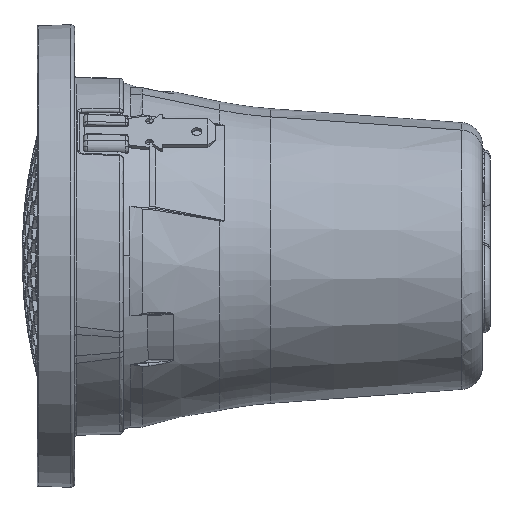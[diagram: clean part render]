
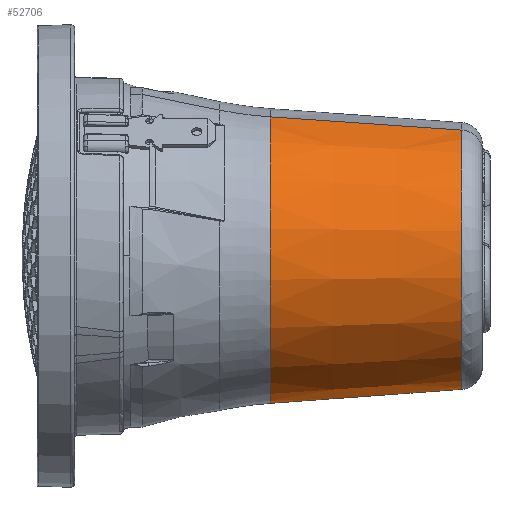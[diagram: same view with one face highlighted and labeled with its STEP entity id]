
A CAD part, left-side view. The second image highlights one B-rep face of the part: STEP entity #52706.
In plain terms, the highlighted conical face has half-angle 4.174 degrees and reference radius 17.781 mm.
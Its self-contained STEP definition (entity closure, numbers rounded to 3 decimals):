
#3925 = CIRCLE ( 'NONE', #6876, 17.781 ) ;
#4577 = ORIENTED_EDGE ( 'NONE', *, *, #50962, .F. ) ;
#6876 = AXIS2_PLACEMENT_3D ( 'NONE', #60961, #88855, #52764 ) ;
#14191 = ORIENTED_EDGE ( 'NONE', *, *, #18316, .F. ) ;
#14974 = DIRECTION ( 'NONE',  ( -0.33, 0., 0.944 ) ) ;
#15129 = EDGE_CURVE ( 'NONE', #24860, #88578, #34732, .T. ) ;
#15217 = FACE_OUTER_BOUND ( 'NONE', #85118, .T. ) ;
#16648 = CARTESIAN_POINT ( 'NONE',  ( 5.868, -50.668, -16.785 ) ) ;
#18316 = EDGE_CURVE ( 'NONE', #55205, #56632, #3925, .T. ) ;
#18570 = CARTESIAN_POINT ( 'NONE',  ( 5.868, -50.668, -16.785 ) ) ;
#22345 = VECTOR ( 'NONE', #38213, 1000. ) ;
#22695 = CARTESIAN_POINT ( 'NONE',  ( 0., -25.161, 0. ) ) ;
#23921 = DIRECTION ( 'NONE',  ( 0.024, 0.997, -0.069 ) ) ;
#24114 = LINE ( 'NONE', #72812, #22345 ) ;
#24860 = VERTEX_POINT ( 'NONE', #32748 ) ;
#25682 = EDGE_CURVE ( 'NONE', #55205, #24860, #24114, .T. ) ;
#26124 = CONICAL_SURFACE ( 'NONE', #77058, 17.781, 0.073 ) ;
#30336 = LINE ( 'NONE', #16648, #85536 ) ;
#32748 = CARTESIAN_POINT ( 'NONE',  ( -6.483, -25.161, 18.542 ) ) ;
#34299 = ORIENTED_EDGE ( 'NONE', *, *, #25682, .T. ) ;
#34732 = CIRCLE ( 'NONE', #41993, 19.643 ) ;
#37899 = CARTESIAN_POINT ( 'NONE',  ( 6.483, -25.161, -18.542 ) ) ;
#38071 = CARTESIAN_POINT ( 'NONE',  ( -5.868, -50.668, 16.785 ) ) ;
#38213 = DIRECTION ( 'NONE',  ( -0.024, 0.997, 0.069 ) ) ;
#41993 = AXIS2_PLACEMENT_3D ( 'NONE', #22695, #63251, #14974 ) ;
#48506 = CARTESIAN_POINT ( 'NONE',  ( 0., -50.668, 0. ) ) ;
#50962 = EDGE_CURVE ( 'NONE', #56632, #88578, #30336, .T. ) ;
#52706 = ADVANCED_FACE ( 'NONE', ( #15217 ), #26124, .T. ) ;
#52764 = DIRECTION ( 'NONE',  ( 0.33, 0., -0.944 ) ) ;
#55205 = VERTEX_POINT ( 'NONE', #38071 ) ;
#56632 = VERTEX_POINT ( 'NONE', #18570 ) ;
#60961 = CARTESIAN_POINT ( 'NONE',  ( 0., -50.668, 0. ) ) ;
#63251 = DIRECTION ( 'NONE',  ( 0., -1., 0. ) ) ;
#72812 = CARTESIAN_POINT ( 'NONE',  ( -5.868, -50.668, 16.785 ) ) ;
#77058 = AXIS2_PLACEMENT_3D ( 'NONE', #48506, #89580, #83195 ) ;
#80133 = ORIENTED_EDGE ( 'NONE', *, *, #15129, .T. ) ;
#83195 = DIRECTION ( 'NONE',  ( -0.33, 0., 0.944 ) ) ;
#85118 = EDGE_LOOP ( 'NONE', ( #4577, #14191, #34299, #80133 ) ) ;
#85536 = VECTOR ( 'NONE', #23921, 1000. ) ;
#88578 = VERTEX_POINT ( 'NONE', #37899 ) ;
#88855 = DIRECTION ( 'NONE',  ( 0., -1., 0. ) ) ;
#89580 = DIRECTION ( 'NONE',  ( 0., 1., 0. ) ) ;
